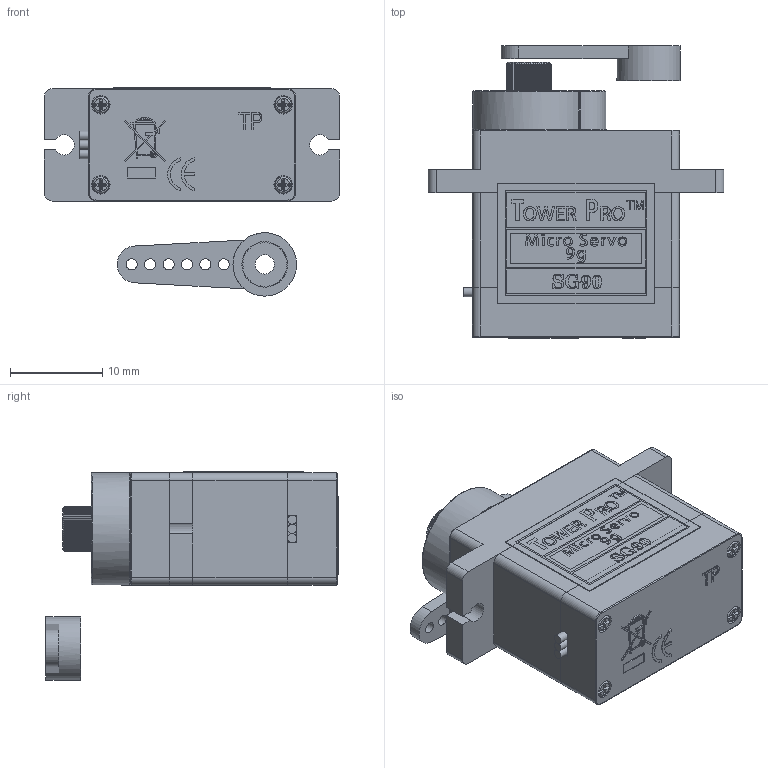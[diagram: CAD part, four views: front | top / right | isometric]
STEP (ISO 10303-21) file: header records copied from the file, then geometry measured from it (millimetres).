
FILE_DESCRIPTION(/* description */ (''),/* implementation_level */ '2;1');
FILE_NAME(/* name */ 'SG90 Without holder_v2.tmp.step',/* time_stamp */ '2026-11-01T13:11:11+02:00',/* author */ (''),/* organization */ (''),/* preprocessor_version */ 'ST-DEVELOPER v20.2',/* originating_system */ 'Autodesk Translation Framework v15.15.0.0',/* authorisation */ '');
FILE_SCHEMA (('AUTOMOTIVE_DESIGN { 1 0 10303 214 3 1 1 }'));
Length unit declared in the file: millimetre
Products named in the file (2): SG90 - Micro Servo 9g - Tower Pro.1; SG90 - Micro Servo 9g - Tower Pro.2
Assembly tree (1 placements, depth 2):
  SG90 - Micro Servo 9g - Tower Pro.1
    SG90 - Micro Servo 9g - Tower Pro.2
Bounding box: 32.1 x 31.78 x 22.64 mm (x, y, z)
Volume: 7200.4 mm3; surface area: 5315 mm2
Topology: 14 solids, 14 shells, 809 faces, 2739 edges, 2070 vertices
Faces by surface type: plane 560, cylinder 198, torus 25, bspline 23, sphere 2, cone 1
Full cylindrical faces by diameter (mm): 0.2 x1, 0.5 x1, 1 x3, 1.2 x6, 1.6 x2, 1.8 x4, 2 x4, 2.1 x1, 4.6 x1, 5 x1, 6.9 x1
Entity records: 45529 total; most frequent: CARTESIAN_POINT 21630, ORIENTED_EDGE 5474, DIRECTION 4188, EDGE_CURVE 2737, VERTEX_POINT 2070, LINE 1684, VECTOR 1684, AXIS2_PLACEMENT_3D 1252
